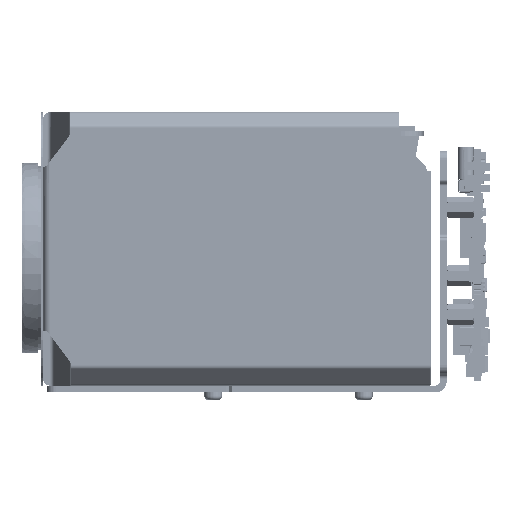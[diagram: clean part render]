
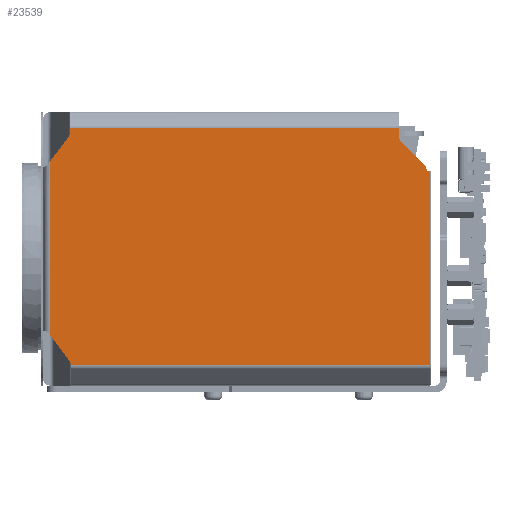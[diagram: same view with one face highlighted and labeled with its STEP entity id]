
A CAD part, front view. The second image highlights one B-rep face of the part: STEP entity #23539.
In plain terms, the highlighted planar face has unit normal (0, -1, 0) as drawn and (0, 1, 0) by its records, which use the part's own axes.
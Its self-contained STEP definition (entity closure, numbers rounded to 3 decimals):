
#23539 = ADVANCED_FACE( '', ( #46907 ), #46908, .F. );
#46907 = FACE_OUTER_BOUND( '', #73587, .T. );
#46908 = PLANE( '', #73588 );
#73587 = EDGE_LOOP( '', ( #104843, #104844, #104845, #104846, #104847, #104848, #104849, #104850, #104851, #104852, #104853, #104854, #104855, #104856, #104857, #104858, #104859 ) );
#73588 = AXIS2_PLACEMENT_3D( '', #104860, #104861, #104862 );
#104843 = ORIENTED_EDGE( '', *, *, #159010, .T. );
#104844 = ORIENTED_EDGE( '', *, *, #159011, .T. );
#104845 = ORIENTED_EDGE( '', *, *, #157075, .T. );
#104846 = ORIENTED_EDGE( '', *, *, #159012, .T. );
#104847 = ORIENTED_EDGE( '', *, *, #159013, .T. );
#104848 = ORIENTED_EDGE( '', *, *, #157537, .T. );
#104849 = ORIENTED_EDGE( '', *, *, #159014, .T. );
#104850 = ORIENTED_EDGE( '', *, *, #159015, .F. );
#104851 = ORIENTED_EDGE( '', *, *, #154146, .T. );
#104852 = ORIENTED_EDGE( '', *, *, #159016, .F. );
#104853 = ORIENTED_EDGE( '', *, *, #159017, .T. );
#104854 = ORIENTED_EDGE( '', *, *, #159018, .F. );
#104855 = ORIENTED_EDGE( '', *, *, #159019, .F. );
#104856 = ORIENTED_EDGE( '', *, *, #158337, .F. );
#104857 = ORIENTED_EDGE( '', *, *, #159020, .T. );
#104858 = ORIENTED_EDGE( '', *, *, #159021, .F. );
#104859 = ORIENTED_EDGE( '', *, *, #159022, .T. );
#104860 = CARTESIAN_POINT( '', ( 42.5, 25., 60. ) );
#104861 = DIRECTION( '', ( 0., -1., 0. ) );
#104862 = DIRECTION( '', ( 1., 0., 0. ) );
#154146 = EDGE_CURVE( '', #175523, #175524, #175525, .T. );
#157075 = EDGE_CURVE( '', #180776, #180777, #180778, .T. );
#157537 = EDGE_CURVE( '', #181568, #181569, #181570, .F. );
#158337 = EDGE_CURVE( '', #182933, #182935, #182936, .T. );
#159010 = EDGE_CURVE( '', #184063, #184064, #184065, .T. );
#159011 = EDGE_CURVE( '', #184064, #180776, #184066, .T. );
#159012 = EDGE_CURVE( '', #180777, #184067, #184068, .T. );
#159013 = EDGE_CURVE( '', #184067, #181568, #184069, .T. );
#159014 = EDGE_CURVE( '', #181569, #184070, #184071, .F. );
#159015 = EDGE_CURVE( '', #175523, #184070, #184072, .T. );
#159016 = EDGE_CURVE( '', #184073, #175524, #184074, .T. );
#159017 = EDGE_CURVE( '', #184073, #184075, #184076, .F. );
#159018 = EDGE_CURVE( '', #184077, #184075, #184078, .T. );
#159019 = EDGE_CURVE( '', #182935, #184077, #184079, .T. );
#159020 = EDGE_CURVE( '', #182933, #184080, #184081, .T. );
#159021 = EDGE_CURVE( '', #184082, #184080, #184083, .T. );
#159022 = EDGE_CURVE( '', #184082, #184063, #184084, .T. );
#175523 = VERTEX_POINT( '', #206431 );
#175524 = VERTEX_POINT( '', #206432 );
#175525 = CIRCLE( '', #206433, 0.1 );
#180776 = VERTEX_POINT( '', #214138 );
#180777 = VERTEX_POINT( '', #214139 );
#180778 = LINE( '', #214140, #214141 );
#181568 = VERTEX_POINT( '', #215394 );
#181569 = VERTEX_POINT( '', #215395 );
#181570 = LINE( '', #215396, #215397 );
#182933 = VERTEX_POINT( '', #217398 );
#182935 = VERTEX_POINT( '', #217400 );
#182936 = LINE( '', #217401, #217402 );
#184063 = VERTEX_POINT( '', #219072 );
#184064 = VERTEX_POINT( '', #219073 );
#184065 = LINE( '', #219074, #219075 );
#184066 = LINE( '', #219076, #219077 );
#184067 = VERTEX_POINT( '', #219078 );
#184068 = CIRCLE( '', #219079, 1. );
#184069 = LINE( '', #219080, #219081 );
#184070 = VERTEX_POINT( '', #219082 );
#184071 = LINE( '', #219083, #219084 );
#184072 = LINE( '', #219085, #219086 );
#184073 = VERTEX_POINT( '', #219087 );
#184074 = LINE( '', #219088, #219089 );
#184075 = VERTEX_POINT( '', #219090 );
#184076 = CIRCLE( '', #219091, 1.6 );
#184077 = VERTEX_POINT( '', #219092 );
#184078 = LINE( '', #219093, #219094 );
#184079 = CIRCLE( '', #219095, 1.6 );
#184080 = VERTEX_POINT( '', #219096 );
#184081 = LINE( '', #219097, #219098 );
#184082 = VERTEX_POINT( '', #219099 );
#184083 = LINE( '', #219100, #219101 );
#184084 = CIRCLE( '', #219102, 1. );
#206431 = CARTESIAN_POINT( '', ( -41.7, 25., 47. ) );
#206432 = CARTESIAN_POINT( '', ( -41.6, 25., 47.1 ) );
#206433 = AXIS2_PLACEMENT_3D( '', #251344, #251345, #251346 );
#214138 = CARTESIAN_POINT( '', ( 41., 25., 11.071 ) );
#214139 = CARTESIAN_POINT( '', ( 36.701, 25., 5.368 ) );
#214140 = CARTESIAN_POINT( '', ( 41.7, 25., 12. ) );
#214141 = VECTOR( '', #254572, 1000. );
#215394 = CARTESIAN_POINT( '', ( 36.5, 25., 4.497 ) );
#215395 = CARTESIAN_POINT( '', ( -42.3, 25., 4.497 ) );
#215396 = CARTESIAN_POINT( '', ( -42.5, 25., 4.497 ) );
#215397 = VECTOR( '', #254994, 1000. );
#217398 = CARTESIAN_POINT( '', ( -35.5, 25., 56.503 ) );
#217400 = CARTESIAN_POINT( '', ( -35.5, 25., 54.763 ) );
#217401 = CARTESIAN_POINT( '', ( -35.5, 25., 56.85 ) );
#217402 = VECTOR( '', #255811, 1000. );
#219072 = CARTESIAN_POINT( '', ( 36.901, 25., 54.633 ) );
#219073 = CARTESIAN_POINT( '', ( 41., 25., 49.194 ) );
#219074 = CARTESIAN_POINT( '', ( 36.7, 25., 54.9 ) );
#219075 = VECTOR( '', #256485, 1000. );
#219076 = CARTESIAN_POINT( '', ( 41., 25., 60. ) );
#219077 = VECTOR( '', #256486, 1000. );
#219078 = CARTESIAN_POINT( '', ( 36.5, 25., 4.766 ) );
#219079 = AXIS2_PLACEMENT_3D( '', #256487, #256488, #256489 );
#219080 = CARTESIAN_POINT( '', ( 36.5, 25., 12. ) );
#219081 = VECTOR( '', #256490, 1000. );
#219082 = CARTESIAN_POINT( '', ( -42.3, 25., 47. ) );
#219083 = CARTESIAN_POINT( '', ( -42.3, 25., 60. ) );
#219084 = VECTOR( '', #256491, 1000. );
#219085 = CARTESIAN_POINT( '', ( 42.5, 25., 47. ) );
#219086 = VECTOR( '', #256492, 1000. );
#219087 = CARTESIAN_POINT( '', ( -41.6, 25., 47.337 ) );
#219088 = CARTESIAN_POINT( '', ( -41.6, 25., 60. ) );
#219089 = VECTOR( '', #256493, 1000. );
#219090 = CARTESIAN_POINT( '', ( -41.131, 25., 48.469 ) );
#219091 = AXIS2_PLACEMENT_3D( '', #256494, #256495, #256496 );
#219092 = CARTESIAN_POINT( '', ( -35.969, 25., 53.631 ) );
#219093 = CARTESIAN_POINT( '', ( 6.45, 25., 96.05 ) );
#219094 = VECTOR( '', #256497, 1000. );
#219095 = AXIS2_PLACEMENT_3D( '', #256498, #256499, #256500 );
#219096 = CARTESIAN_POINT( '', ( 36.7, 25., 56.503 ) );
#219097 = CARTESIAN_POINT( '', ( 42.5, 25., 56.503 ) );
#219098 = VECTOR( '', #256501, 1000. );
#219099 = CARTESIAN_POINT( '', ( 36.7, 25., 55.235 ) );
#219100 = CARTESIAN_POINT( '', ( 36.7, 25., 48. ) );
#219101 = VECTOR( '', #256502, 1000. );
#219102 = AXIS2_PLACEMENT_3D( '', #256503, #256504, #256505 );
#251344 = CARTESIAN_POINT( '', ( -41.7, 25., 47.1 ) );
#251345 = DIRECTION( '', ( 0., -1., 0. ) );
#251346 = DIRECTION( '', ( 1., 0., 0. ) );
#254572 = DIRECTION( '', ( -0.602, 0., -0.799 ) );
#254994 = DIRECTION( '', ( 1., 0., 0. ) );
#255811 = DIRECTION( '', ( 0., 0., -1. ) );
#256485 = DIRECTION( '', ( 0.602, 0., -0.799 ) );
#256486 = DIRECTION( '', ( 0., 0., -1. ) );
#256487 = CARTESIAN_POINT( '', ( 37.5, 25., 4.766 ) );
#256488 = DIRECTION( '', ( 0., -1., 0. ) );
#256489 = DIRECTION( '', ( 1., 0., 0. ) );
#256490 = DIRECTION( '', ( 0., 0., -1. ) );
#256491 = DIRECTION( '', ( 0., 0., -1. ) );
#256492 = DIRECTION( '', ( -1., 0., 0. ) );
#256493 = DIRECTION( '', ( 0., 0., -1. ) );
#256494 = CARTESIAN_POINT( '', ( -40., 25., 47.337 ) );
#256495 = DIRECTION( '', ( 0., -1., 0. ) );
#256496 = DIRECTION( '', ( 1., 0., 0. ) );
#256497 = DIRECTION( '', ( -0.707, 0., -0.707 ) );
#256498 = CARTESIAN_POINT( '', ( -37.1, 25., 54.763 ) );
#256499 = DIRECTION( '', ( 0., 1., 0. ) );
#256500 = DIRECTION( '', ( -1., 0., 0. ) );
#256501 = DIRECTION( '', ( 1., 0., 0. ) );
#256502 = DIRECTION( '', ( 0., 0., 1. ) );
#256503 = CARTESIAN_POINT( '', ( 37.7, 25., 55.235 ) );
#256504 = DIRECTION( '', ( 0., -1., 0. ) );
#256505 = DIRECTION( '', ( 1., 0., 0. ) );
